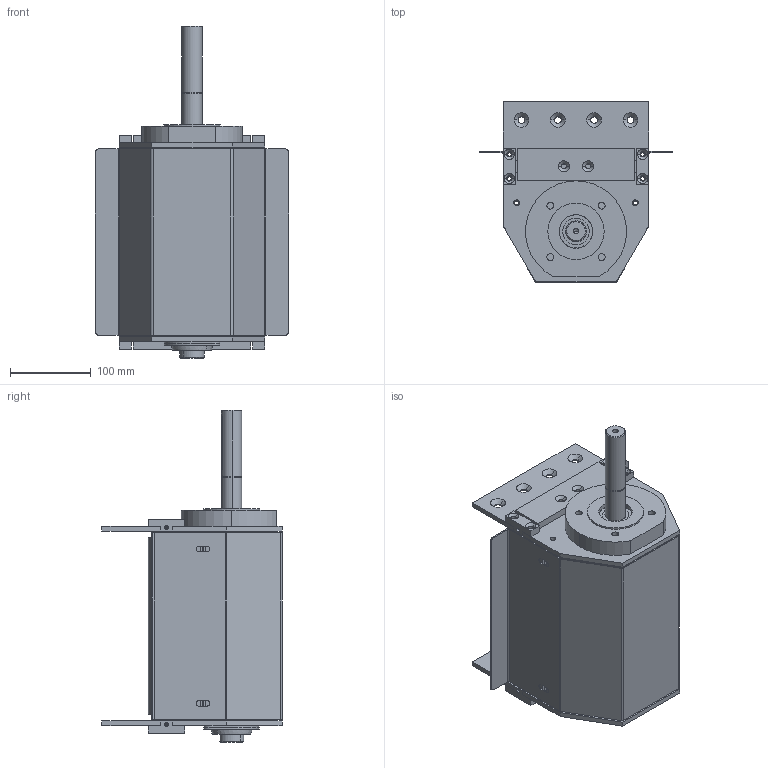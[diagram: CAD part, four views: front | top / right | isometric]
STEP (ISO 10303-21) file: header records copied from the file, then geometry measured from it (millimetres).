
FILE_DESCRIPTION (( 'STEP AP203' ), '1' );
FILE_NAME ('084.095.KCS.49.200.step', '2014-02-18T11:37:19', ( '' ), ( '' ), 'SwSTEP 2.0', 'SolidWorks 2012', '' );
FILE_SCHEMA (( 'CONFIG_CONTROL_DESIGN' ));
Length unit declared in the file: millimetre
Products named in the file (19): 084.810.003; 084.802.021; 084.817.028; 084.817.027; 084.814.003-1; 084.802.004-1; 084.802.011; TRAVERSA PER CARTER^084.095.KCS.49.200_Default<A macchina>; 084.817.026; 084.802.020; 084.812.003; 084.802.003; CUSCINETTI A SFERE_6004-2RS; 084.802.012_Solo centrale; 084.817.025_Default<A macchina>; 084.802.048; 084.802.047; 084.802.046; 084.095.KCS.49.200
Assembly tree (33 placements, depth 2):
  084.095.KCS.49.200
    084.817.028  x2
    084.817.026
    084.817.027  x2
    TRAVERSA PER CARTER^084.095.KCS.49.200_Default<A macchina>  x2
    084.802.011
    084.802.021
    084.814.003-1
    084.810.003  x2
    084.802.004-1  x4
    084.802.020
    084.812.003
    084.802.003  x2
    CUSCINETTI A SFERE_6004-2RS  x4
    084.802.012_Solo centrale  x2
    084.817.025_Default<A macchina>
    084.802.048  x4
    084.802.047
    084.802.046
Bounding box: 240 x 223 x 411 mm (x, y, z)
Volume: 2235574.5 mm3; surface area: 1111914.8 mm2
Topology: 35 solids, 35 shells, 1091 faces, 2732 edges, 1756 vertices
Faces by surface type: plane 461, cylinder 419, cone 133, torus 68, sphere 10
Entity records: 22383 total; most frequent: DIRECTION 3708, CARTESIAN_POINT 3477, ORIENTED_EDGE 3236, EDGE_CURVE 1618, AXIS2_PLACEMENT_3D 1412, VERTEX_POINT 1041, LINE 884, VECTOR 884
